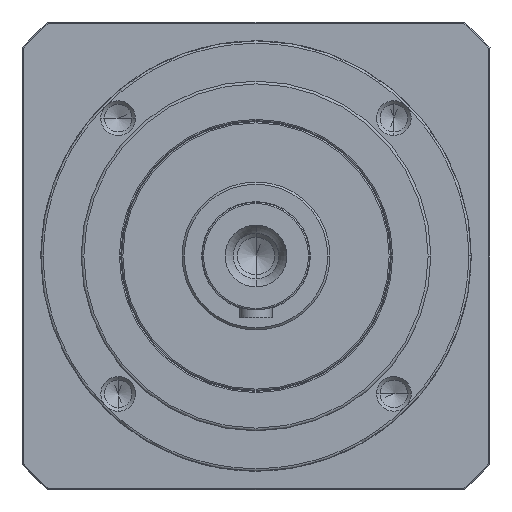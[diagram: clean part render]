
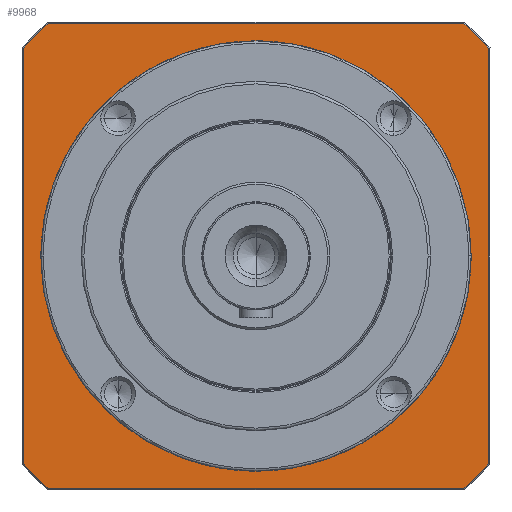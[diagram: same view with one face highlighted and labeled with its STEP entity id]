
A CAD part, left-side view. The second image highlights one B-rep face of the part: STEP entity #9968.
In plain terms, the highlighted planar face has unit normal (-1, 0, 0) as drawn and (0, 0, -1) by its records, which use the part's own axes.
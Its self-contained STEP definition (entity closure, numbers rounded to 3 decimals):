
#8854=CARTESIAN_POINT('',(0.,0.,
2.5));
#8855=DIRECTION('',(0.,0.,-1.));
#8856=DIRECTION('',(0.,-1.,0.));
#8857=AXIS2_PLACEMENT_3D('',#8854,#8855,#8856);
#8859=CARTESIAN_POINT('',(0.,0.,
2.5));
#8860=DIRECTION('',(0.,0.,-1.));
#8861=DIRECTION('',(0.,1.,0.));
#8862=AXIS2_PLACEMENT_3D('',#8859,#8860,#8861);
#8864=CARTESIAN_POINT('',(0.,0.,2.5));
#8865=DIRECTION('',(0.,0.,1.));
#8866=DIRECTION('',(-0.746,-0.666,0.));
#8867=AXIS2_PLACEMENT_3D('',#8864,#8865,#8866);
#8869=DIRECTION('',(1.,0.,0.));
#8870=VECTOR('',#8869,154.58);
#8871=CARTESIAN_POINT('',(-77.29,-86.5,
2.5));
#8872=LINE('',#8871,#8870);
#8873=CARTESIAN_POINT('',(0.,0.,2.5));
#8874=DIRECTION('',(0.,0.,1.));
#8875=DIRECTION('',(0.666,-0.746,0.));
#8876=AXIS2_PLACEMENT_3D('',#8873,#8874,#8875);
#8878=DIRECTION('',(0.,1.,0.));
#8879=VECTOR('',#8878,154.58);
#8880=CARTESIAN_POINT('',(86.5,-77.29,2.5));
#8881=LINE('',#8880,#8879);
#8882=CARTESIAN_POINT('',(0.,0.,2.5));
#8883=DIRECTION('',(0.,0.,1.));
#8884=DIRECTION('',(0.746,0.666,0.));
#8885=AXIS2_PLACEMENT_3D('',#8882,#8883,#8884);
#8887=DIRECTION('',(-1.,0.,0.));
#8888=VECTOR('',#8887,154.58);
#8889=CARTESIAN_POINT('',(77.29,86.5,2.5));
#8890=LINE('',#8889,#8888);
#8891=CARTESIAN_POINT('',(0.,0.,2.5));
#8892=DIRECTION('',(0.,0.,1.));
#8893=DIRECTION('',(-0.666,0.746,0.));
#8894=AXIS2_PLACEMENT_3D('',#8891,#8892,#8893);
#8896=DIRECTION('',(0.,-1.,0.));
#8897=VECTOR('',#8896,154.58);
#8898=CARTESIAN_POINT('',(-86.5,77.29,2.5));
#8899=LINE('',#8898,#8897);
#9617=CARTESIAN_POINT('',(0.,-69.5,2.5));
#9618=CARTESIAN_POINT('',(0.,69.5,
2.5));
#9619=VERTEX_POINT('',#9617);
#9620=VERTEX_POINT('',#9618);
#9721=CARTESIAN_POINT('',(-86.5,-77.29,2.5));
#9722=CARTESIAN_POINT('',(-77.29,-86.5,2.5));
#9723=VERTEX_POINT('',#9721);
#9724=VERTEX_POINT('',#9722);
#9729=CARTESIAN_POINT('',(77.29,-86.5,2.5));
#9730=VERTEX_POINT('',#9729);
#9733=CARTESIAN_POINT('',(86.5,-77.29,2.5));
#9734=VERTEX_POINT('',#9733);
#9737=CARTESIAN_POINT('',(86.5,77.29,2.5));
#9738=VERTEX_POINT('',#9737);
#9741=CARTESIAN_POINT('',(77.29,86.5,2.5));
#9742=VERTEX_POINT('',#9741);
#9745=CARTESIAN_POINT('',(-77.29,86.5,2.5));
#9746=VERTEX_POINT('',#9745);
#9751=CARTESIAN_POINT('',(-86.5,77.29,2.5));
#9752=VERTEX_POINT('',#9751);
#9940=CARTESIAN_POINT('',(0.,0.,2.5));
#9941=DIRECTION('',(0.,0.,1.));
#9942=DIRECTION('',(0.,1.,0.));
#9943=AXIS2_PLACEMENT_3D('',#9940,#9941,#9942);
#9944=PLANE('',#9943);
#9946=ORIENTED_EDGE('',*,*,#9945,.T.);
#9948=ORIENTED_EDGE('',*,*,#9947,.T.);
#9950=ORIENTED_EDGE('',*,*,#9949,.T.);
#9952=ORIENTED_EDGE('',*,*,#9951,.T.);
#9954=ORIENTED_EDGE('',*,*,#9953,.T.);
#9956=ORIENTED_EDGE('',*,*,#9955,.T.);
#9958=ORIENTED_EDGE('',*,*,#9957,.T.);
#9960=ORIENTED_EDGE('',*,*,#9959,.T.);
#9961=EDGE_LOOP('',(#9946,#9948,#9950,#9952,#9954,#9956,#9958,#9960));
#9962=FACE_OUTER_BOUND('',#9961,.F.);
#9964=ORIENTED_EDGE('',*,*,#9963,.T.);
#9965=ORIENTED_EDGE('',*,*,#9930,.T.);
#9966=EDGE_LOOP('',(#9964,#9965));
#9967=FACE_BOUND('',#9966,.F.);
#9968=ADVANCED_FACE('',(#9962,#9967),#9944,.F.);
#8858=CIRCLE('',#8857,69.5);
#8863=CIRCLE('',#8862,69.5);
#8868=CIRCLE('',#8867,116.);
#8877=CIRCLE('',#8876,116.);
#8886=CIRCLE('',#8885,116.);
#8895=CIRCLE('',#8894,116.);
#9930=EDGE_CURVE('',#9620,#9619,#8863,.T.);
#9945=EDGE_CURVE('',#9723,#9724,#8868,.T.);
#9947=EDGE_CURVE('',#9724,#9730,#8872,.T.);
#9949=EDGE_CURVE('',#9730,#9734,#8877,.T.);
#9951=EDGE_CURVE('',#9734,#9738,#8881,.T.);
#9953=EDGE_CURVE('',#9738,#9742,#8886,.T.);
#9955=EDGE_CURVE('',#9742,#9746,#8890,.T.);
#9957=EDGE_CURVE('',#9746,#9752,#8895,.T.);
#9959=EDGE_CURVE('',#9752,#9723,#8899,.T.);
#9963=EDGE_CURVE('',#9619,#9620,#8858,.T.);
